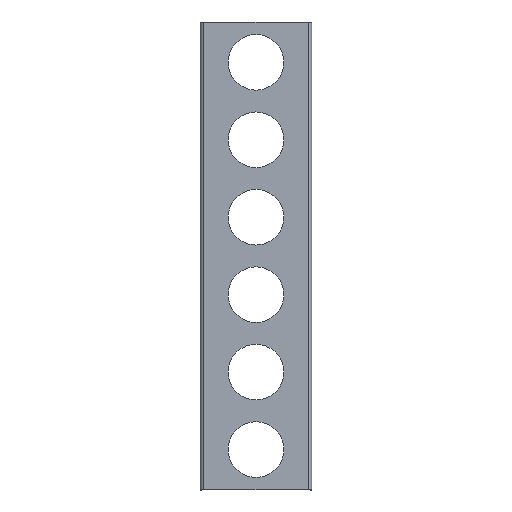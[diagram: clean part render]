
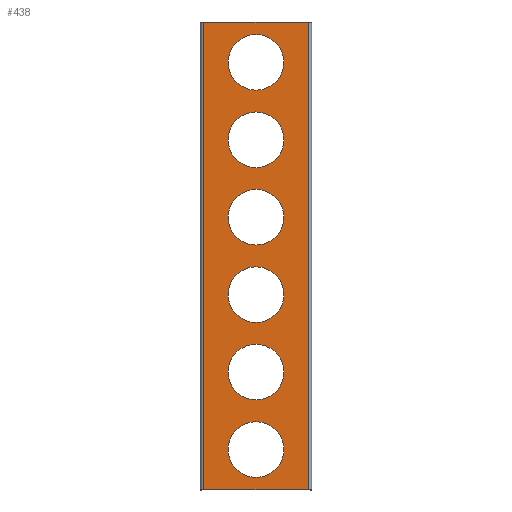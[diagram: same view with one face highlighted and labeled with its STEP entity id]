
A CAD part, top view. The second image highlights one B-rep face of the part: STEP entity #438.
In plain terms, the highlighted planar face has unit normal (0, 0, 1).
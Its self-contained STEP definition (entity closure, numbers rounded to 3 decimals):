
#2 = VERTEX_POINT ( 'NONE', #10 ) ;
#6 = VERTEX_POINT ( 'NONE', #384 ) ;
#9 = VERTEX_POINT ( 'NONE', #374 ) ;
#10 = CARTESIAN_POINT ( 'NONE',  ( 25.5, 321., 40. ) ) ;
#12 = VERTEX_POINT ( 'NONE', #360 ) ;
#13 = VERTEX_POINT ( 'NONE', #365 ) ;
#15 = VERTEX_POINT ( 'NONE', #406 ) ;
#16 = VERTEX_POINT ( 'NONE', #370 ) ;
#17 = VERTEX_POINT ( 'NONE', #385 ) ;
#19 = VERTEX_POINT ( 'NONE', #403 ) ;
#20 = VERTEX_POINT ( 'NONE', #361 ) ;
#25 = VERTEX_POINT ( 'NONE', #373 ) ;
#34 = VERTEX_POINT ( 'NONE', #387 ) ;
#39 = VERTEX_POINT ( 'NONE', #394 ) ;
#40 = VERTEX_POINT ( 'NONE', #376 ) ;
#42 = VERTEX_POINT ( 'NONE', #356 ) ;
#50 = VERTEX_POINT ( 'NONE', #389 ) ;
#53 = CIRCLE ( 'NONE', #573, 25.5 ) ;
#92 = CIRCLE ( 'NONE', #667, 25.5 ) ;
#96 = CIRCLE ( 'NONE', #668, 25.5 ) ;
#100 = VECTOR ( 'NONE', #492, 1000. ) ;
#101 = LINE ( 'NONE', #491, #100 ) ;
#109 = CIRCLE ( 'NONE', #682, 25.5 ) ;
#114 = CIRCLE ( 'NONE', #673, 25.5 ) ;
#123 = VECTOR ( 'NONE', #463, 1000. ) ;
#124 = LINE ( 'NONE', #462, #123 ) ;
#125 = CIRCLE ( 'NONE', #674, 25.5 ) ;
#127 = CIRCLE ( 'NONE', #678, 25.5 ) ;
#142 = CIRCLE ( 'NONE', #684, 25.5 ) ;
#147 = CIRCLE ( 'NONE', #690, 25.5 ) ;
#149 = VECTOR ( 'NONE', #318, 1000. ) ;
#150 = LINE ( 'NONE', #317, #149 ) ;
#161 = CIRCLE ( 'NONE', #694, 25.5 ) ;
#181 = CIRCLE ( 'NONE', #616, 25.5 ) ;
#183 = CIRCLE ( 'NONE', #583, 25.5 ) ;
#197 = LINE ( 'NONE', #259, #198 ) ;
#198 = VECTOR ( 'NONE', #266, 1000. ) ;
#259 = CARTESIAN_POINT ( 'NONE',  ( -48., 479., 40. ) ) ;
#266 = DIRECTION ( 'NONE',  ( 0., 1., 0. ) ) ;
#273 = CARTESIAN_POINT ( 'NONE',  ( 0., 108., 40. ) ) ;
#274 = DIRECTION ( 'NONE',  ( 0., 0., -1. ) ) ;
#275 = DIRECTION ( 'NONE',  ( 1., 0., 0. ) ) ;
#276 = CARTESIAN_POINT ( 'NONE',  ( 0., 250., 40. ) ) ;
#277 = DIRECTION ( 'NONE',  ( 0., 0., -1. ) ) ;
#278 = DIRECTION ( 'NONE',  ( 1., 0., 0. ) ) ;
#282 = CARTESIAN_POINT ( 'NONE',  ( 0., 392., 40. ) ) ;
#284 = DIRECTION ( 'NONE',  ( 0., 0., -1. ) ) ;
#285 = DIRECTION ( 'NONE',  ( 1., 0., 0. ) ) ;
#294 = CARTESIAN_POINT ( 'NONE',  ( 0., 179., 40. ) ) ;
#295 = DIRECTION ( 'NONE',  ( 0., 0., -1. ) ) ;
#296 = DIRECTION ( 'NONE',  ( 1., 0., 0. ) ) ;
#308 = CARTESIAN_POINT ( 'NONE',  ( 0., 108., 40. ) ) ;
#312 = CARTESIAN_POINT ( 'NONE',  ( 0., 37., 40. ) ) ;
#315 = DIRECTION ( 'NONE',  ( 0., 0., -1. ) ) ;
#316 = DIRECTION ( 'NONE',  ( 1., 0., 0. ) ) ;
#317 = CARTESIAN_POINT ( 'NONE',  ( 48., 0., 40. ) ) ;
#318 = DIRECTION ( 'NONE',  ( 1., 0., 0. ) ) ;
#327 = DIRECTION ( 'NONE',  ( 0., 0., -1. ) ) ;
#328 = DIRECTION ( 'NONE',  ( 1., 0., 0. ) ) ;
#347 = CARTESIAN_POINT ( 'NONE',  ( 0., 321., 40. ) ) ;
#348 = DIRECTION ( 'NONE',  ( 0., 0., -1. ) ) ;
#349 = DIRECTION ( 'NONE',  ( 1., 0., 0. ) ) ;
#350 = CARTESIAN_POINT ( 'NONE',  ( 0., 179., 40. ) ) ;
#352 = DIRECTION ( 'NONE',  ( 0., 0., -1. ) ) ;
#356 = CARTESIAN_POINT ( 'NONE',  ( 25.5, 392., 40. ) ) ;
#360 = CARTESIAN_POINT ( 'NONE',  ( -25.5, 179., 40. ) ) ;
#361 = CARTESIAN_POINT ( 'NONE',  ( -25.5, 392., 40. ) ) ;
#365 = CARTESIAN_POINT ( 'NONE',  ( 25.5, 250., 40. ) ) ;
#370 = CARTESIAN_POINT ( 'NONE',  ( 25.5, 37., 40. ) ) ;
#373 = CARTESIAN_POINT ( 'NONE',  ( 48., 429., 40. ) ) ;
#374 = CARTESIAN_POINT ( 'NONE',  ( -25.5, 321., 40. ) ) ;
#376 = CARTESIAN_POINT ( 'NONE',  ( -25.5, 108., 40. ) ) ;
#384 = CARTESIAN_POINT ( 'NONE',  ( -25.5, 37., 40. ) ) ;
#385 = CARTESIAN_POINT ( 'NONE',  ( -25.5, 250., 40. ) ) ;
#387 = CARTESIAN_POINT ( 'NONE',  ( -48., 0., 40. ) ) ;
#389 = CARTESIAN_POINT ( 'NONE',  ( -48., 429., 40. ) ) ;
#394 = CARTESIAN_POINT ( 'NONE',  ( 25.5, 108., 40. ) ) ;
#403 = CARTESIAN_POINT ( 'NONE',  ( 48., 0., 40. ) ) ;
#406 = CARTESIAN_POINT ( 'NONE',  ( 25.5, 179., 40. ) ) ;
#416 = CARTESIAN_POINT ( 'NONE',  ( -1., 239.5, 40. ) ) ;
#418 = PLANE ( 'NONE',  #581 ) ;
#421 = DIRECTION ( 'NONE',  ( 1., 0., 0. ) ) ;
#432 = DIRECTION ( 'NONE',  ( 0., 0., 1. ) ) ;
#438 = ADVANCED_FACE ( 'NONE', ( #802, #780, #776, #807, #746, #712, #715 ), #418, .T. ) ;
#459 = DIRECTION ( 'NONE',  ( 1., 0., 0. ) ) ;
#462 = CARTESIAN_POINT ( 'NONE',  ( 48., 479., 40. ) ) ;
#463 = DIRECTION ( 'NONE',  ( 0., 1., 0. ) ) ;
#469 = CARTESIAN_POINT ( 'NONE',  ( 0., 37., 40. ) ) ;
#470 = DIRECTION ( 'NONE',  ( 0., 0., -1. ) ) ;
#471 = DIRECTION ( 'NONE',  ( 1., 0., 0. ) ) ;
#475 = CARTESIAN_POINT ( 'NONE',  ( 0., 321., 40. ) ) ;
#477 = DIRECTION ( 'NONE',  ( 0., 0., -1. ) ) ;
#478 = DIRECTION ( 'NONE',  ( 1., 0., 0. ) ) ;
#491 = CARTESIAN_POINT ( 'NONE',  ( -0.5, 429., 40. ) ) ;
#492 = DIRECTION ( 'NONE',  ( 1., 0., 0. ) ) ;
#498 = CARTESIAN_POINT ( 'NONE',  ( 0., 250., 40. ) ) ;
#499 = DIRECTION ( 'NONE',  ( 0., 0., -1. ) ) ;
#500 = DIRECTION ( 'NONE',  ( 1., 0., 0. ) ) ;
#504 = CARTESIAN_POINT ( 'NONE',  ( 0., 392., 40. ) ) ;
#505 = DIRECTION ( 'NONE',  ( 0., 0., -1. ) ) ;
#506 = DIRECTION ( 'NONE',  ( 1., 0., 0. ) ) ;
#573 = AXIS2_PLACEMENT_3D ( 'NONE', #282, #284, #285 ) ;
#576 = EDGE_CURVE ( 'NONE', #34, #50, #197, .T. ) ;
#581 = AXIS2_PLACEMENT_3D ( 'NONE', #416, #432, #421 ) ;
#583 = AXIS2_PLACEMENT_3D ( 'NONE', #273, #274, #275 ) ;
#585 = EDGE_CURVE ( 'NONE', #40, #39, #183, .T. ) ;
#586 = EDGE_CURVE ( 'NONE', #17, #13, #181, .T. ) ;
#589 = EDGE_CURVE ( 'NONE', #20, #42, #53, .T. ) ;
#594 = EDGE_CURVE ( 'NONE', #12, #15, #161, .T. ) ;
#603 = EDGE_CURVE ( 'NONE', #39, #40, #147, .T. ) ;
#604 = EDGE_CURVE ( 'NONE', #34, #19, #150, .T. ) ;
#608 = EDGE_CURVE ( 'NONE', #6, #16, #142, .T. ) ;
#616 = AXIS2_PLACEMENT_3D ( 'NONE', #276, #277, #278 ) ;
#618 = EDGE_CURVE ( 'NONE', #9, #2, #127, .T. ) ;
#619 = EDGE_CURVE ( 'NONE', #15, #12, #125, .T. ) ;
#621 = EDGE_CURVE ( 'NONE', #19, #25, #124, .T. ) ;
#628 = EDGE_CURVE ( 'NONE', #16, #6, #114, .T. ) ;
#631 = EDGE_CURVE ( 'NONE', #2, #9, #109, .T. ) ;
#637 = EDGE_CURVE ( 'NONE', #50, #25, #101, .T. ) ;
#640 = EDGE_CURVE ( 'NONE', #13, #17, #96, .T. ) ;
#643 = EDGE_CURVE ( 'NONE', #42, #20, #92, .T. ) ;
#667 = AXIS2_PLACEMENT_3D ( 'NONE', #504, #505, #506 ) ;
#668 = AXIS2_PLACEMENT_3D ( 'NONE', #498, #499, #500 ) ;
#673 = AXIS2_PLACEMENT_3D ( 'NONE', #469, #470, #471 ) ;
#674 = AXIS2_PLACEMENT_3D ( 'NONE', #350, #352, #459 ) ;
#678 = AXIS2_PLACEMENT_3D ( 'NONE', #347, #348, #349 ) ;
#682 = AXIS2_PLACEMENT_3D ( 'NONE', #475, #477, #478 ) ;
#684 = AXIS2_PLACEMENT_3D ( 'NONE', #312, #327, #328 ) ;
#690 = AXIS2_PLACEMENT_3D ( 'NONE', #308, #315, #316 ) ;
#694 = AXIS2_PLACEMENT_3D ( 'NONE', #294, #295, #296 ) ;
#712 = FACE_BOUND ( 'NONE', #854, .T. ) ;
#715 = FACE_OUTER_BOUND ( 'NONE', #913, .T. ) ;
#736 = EDGE_LOOP ( 'NONE', ( #863, #841 ) ) ;
#746 = FACE_BOUND ( 'NONE', #799, .T. ) ;
#749 = EDGE_LOOP ( 'NONE', ( #885, #762 ) ) ;
#758 = ORIENTED_EDGE ( 'NONE', *, *, #637, .F. ) ;
#759 = ORIENTED_EDGE ( 'NONE', *, *, #618, .T. ) ;
#762 = ORIENTED_EDGE ( 'NONE', *, *, #585, .T. ) ;
#763 = ORIENTED_EDGE ( 'NONE', *, *, #608, .T. ) ;
#771 = EDGE_LOOP ( 'NONE', ( #892, #763 ) ) ;
#776 = FACE_BOUND ( 'NONE', #749, .T. ) ;
#780 = FACE_BOUND ( 'NONE', #849, .T. ) ;
#786 = ORIENTED_EDGE ( 'NONE', *, *, #594, .T. ) ;
#799 = EDGE_LOOP ( 'NONE', ( #877, #786 ) ) ;
#802 = FACE_BOUND ( 'NONE', #736, .T. ) ;
#807 = FACE_BOUND ( 'NONE', #771, .T. ) ;
#833 = ORIENTED_EDGE ( 'NONE', *, *, #621, .T. ) ;
#835 = ORIENTED_EDGE ( 'NONE', *, *, #576, .F. ) ;
#839 = ORIENTED_EDGE ( 'NONE', *, *, #640, .T. ) ;
#841 = ORIENTED_EDGE ( 'NONE', *, *, #589, .T. ) ;
#843 = ORIENTED_EDGE ( 'NONE', *, *, #631, .T. ) ;
#849 = EDGE_LOOP ( 'NONE', ( #839, #857 ) ) ;
#854 = EDGE_LOOP ( 'NONE', ( #843, #759 ) ) ;
#857 = ORIENTED_EDGE ( 'NONE', *, *, #586, .T. ) ;
#863 = ORIENTED_EDGE ( 'NONE', *, *, #643, .T. ) ;
#872 = ORIENTED_EDGE ( 'NONE', *, *, #604, .T. ) ;
#877 = ORIENTED_EDGE ( 'NONE', *, *, #619, .T. ) ;
#885 = ORIENTED_EDGE ( 'NONE', *, *, #603, .T. ) ;
#892 = ORIENTED_EDGE ( 'NONE', *, *, #628, .T. ) ;
#913 = EDGE_LOOP ( 'NONE', ( #758, #835, #872, #833 ) ) ;
